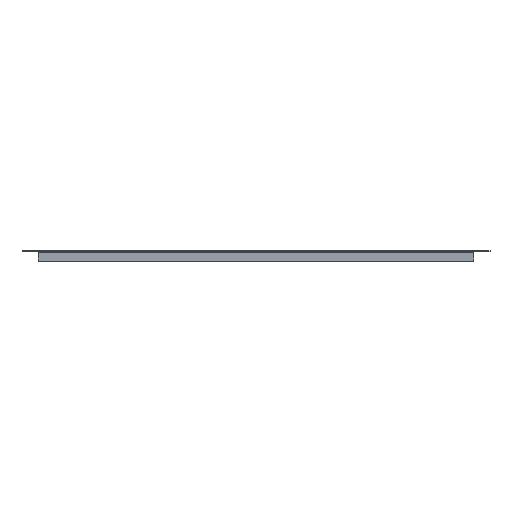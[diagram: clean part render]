
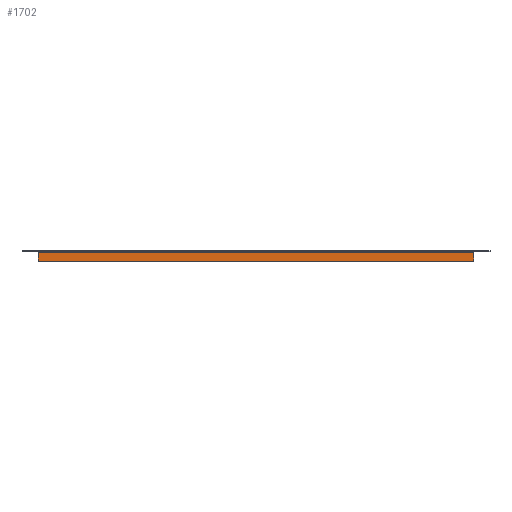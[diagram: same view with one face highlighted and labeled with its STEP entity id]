
A CAD part, front view. The second image highlights one B-rep face of the part: STEP entity #1702.
In plain terms, the highlighted planar face has unit normal (0, -1, 0).
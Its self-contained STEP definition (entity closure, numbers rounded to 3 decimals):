
#29 = EDGE_CURVE ( 'NONE', #1169, #1021, #947, .T. ) ;
#32 = EDGE_CURVE ( 'NONE', #1021, #1126, #913, .T. ) ;
#34 = EDGE_CURVE ( 'NONE', #949, #1169, #1158, .T. ) ;
#37 = EDGE_CURVE ( 'NONE', #1126, #949, #1091, .T. ) ;
#297 = CARTESIAN_POINT ( 'NONE',  ( -309.5, -299.5, -13.8 ) ) ;
#314 = CARTESIAN_POINT ( 'NONE',  ( 309.5, -299.5, -1.2 ) ) ;
#321 = CARTESIAN_POINT ( 'NONE',  ( 309.5, -299.5, -13.8 ) ) ;
#350 = DIRECTION ( 'NONE',  ( 0., 0., -1. ) ) ;
#352 = CARTESIAN_POINT ( 'NONE',  ( 309.5, -299.5, -13.8 ) ) ;
#360 = CARTESIAN_POINT ( 'NONE',  ( 309.5, -299.5, 0. ) ) ;
#361 = CARTESIAN_POINT ( 'NONE',  ( 309.5, -299.5, -1.2 ) ) ;
#365 = DIRECTION ( 'NONE',  ( 1., 0., 0. ) ) ;
#403 = CARTESIAN_POINT ( 'NONE',  ( -309.5, -299.5, -13.8 ) ) ;
#407 = DIRECTION ( 'NONE',  ( 0., 0., 1. ) ) ;
#410 = DIRECTION ( 'NONE',  ( -1., 0., 0. ) ) ;
#469 = CARTESIAN_POINT ( 'NONE',  ( -309.5, -299.5, -1.2 ) ) ;
#732 = AXIS2_PLACEMENT_3D ( 'NONE', #1560, #1565, #1566 ) ;
#871 = VECTOR ( 'NONE', #365, 1000. ) ;
#913 = LINE ( 'NONE', #360, #1201 ) ;
#947 = LINE ( 'NONE', #361, #871 ) ;
#949 = VERTEX_POINT ( 'NONE', #297 ) ;
#1021 = VERTEX_POINT ( 'NONE', #314 ) ;
#1052 = VECTOR ( 'NONE', #407, 1000. ) ;
#1091 = LINE ( 'NONE', #352, #1227 ) ;
#1126 = VERTEX_POINT ( 'NONE', #321 ) ;
#1144 = EDGE_LOOP ( 'NONE', ( #1363, #1329, #1289, #1446 ) ) ;
#1158 = LINE ( 'NONE', #403, #1052 ) ;
#1169 = VERTEX_POINT ( 'NONE', #469 ) ;
#1201 = VECTOR ( 'NONE', #350, 1000. ) ;
#1227 = VECTOR ( 'NONE', #410, 1000. ) ;
#1289 = ORIENTED_EDGE ( 'NONE', *, *, #37, .F. ) ;
#1329 = ORIENTED_EDGE ( 'NONE', *, *, #34, .F. ) ;
#1363 = ORIENTED_EDGE ( 'NONE', *, *, #29, .F. ) ;
#1385 = FACE_OUTER_BOUND ( 'NONE', #1144, .T. ) ;
#1446 = ORIENTED_EDGE ( 'NONE', *, *, #32, .F. ) ;
#1558 = PLANE ( 'NONE',  #732 ) ;
#1560 = CARTESIAN_POINT ( 'NONE',  ( 309.5, -299.5, 0. ) ) ;
#1565 = DIRECTION ( 'NONE',  ( 0., 1., 0. ) ) ;
#1566 = DIRECTION ( 'NONE',  ( 0., 0., 1. ) ) ;
#1702 = ADVANCED_FACE ( 'NONE', ( #1385 ), #1558, .F. ) ;
